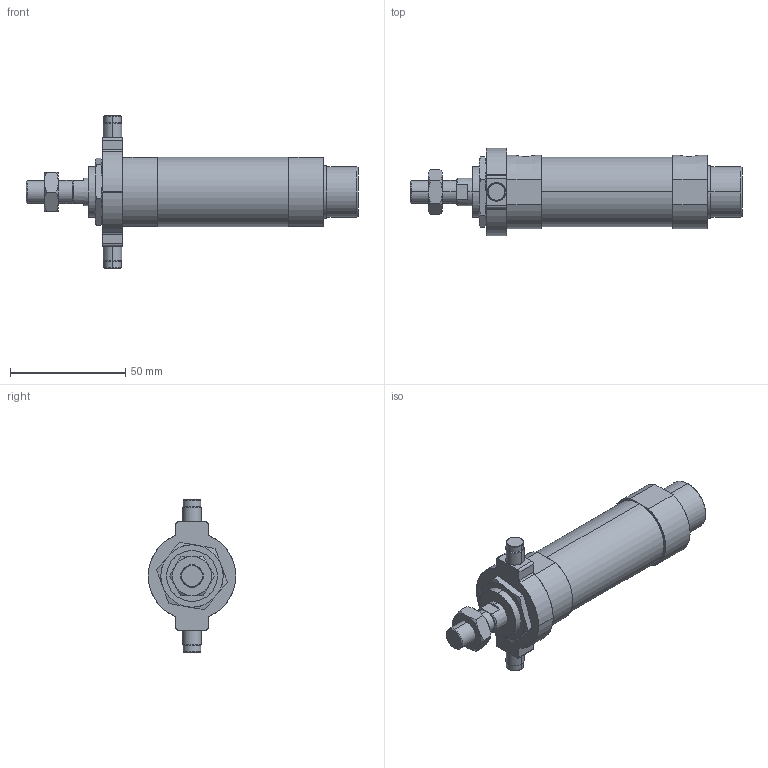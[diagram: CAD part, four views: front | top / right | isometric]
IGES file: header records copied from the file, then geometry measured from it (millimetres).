
Start section: SolidWorks IGES file using analytic representation for surfaces
Global section: file name: C:\Users\Toshiba\Desktop\J#2-25-25-T.IGS; native system: SolidWorks 2014; preprocessor: SolidWorks 2014; author: Toshiba; date: 160308.151011; units: millimetre
Bounding box: 144 x 38 x 66 mm (x, y, z)
Surface area: 20305.6 mm2 (no closed solid volume)
Topology: 0 solids, 0 shells, 136 faces, 2248 edges, 2244 vertices
Faces by surface type: bspline 71, revolution 65
